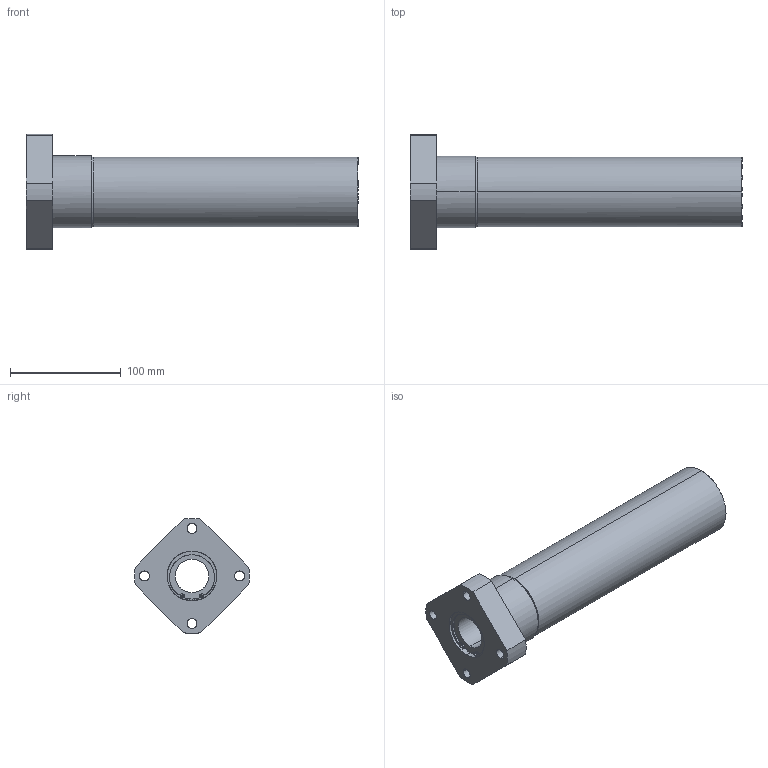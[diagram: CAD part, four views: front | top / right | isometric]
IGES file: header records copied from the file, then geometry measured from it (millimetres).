
Global section: file name: No Iges File Name specified; native system: AutoDesk Inventor R11.0; preprocessor: AutoDesk Inventor Iges Exporter R11.0; author: No Author specified; organization: No Organization specified; date: 20170922.134807; units: millimetre
Bounding box: 300 x 103.86 x 103.93 mm (x, y, z)
Surface area: 113470.6 mm2 (no closed solid volume)
Topology: 0 solids, 0 shells, 130 faces, 964 edges, 964 vertices
Faces by surface type: bspline 130
